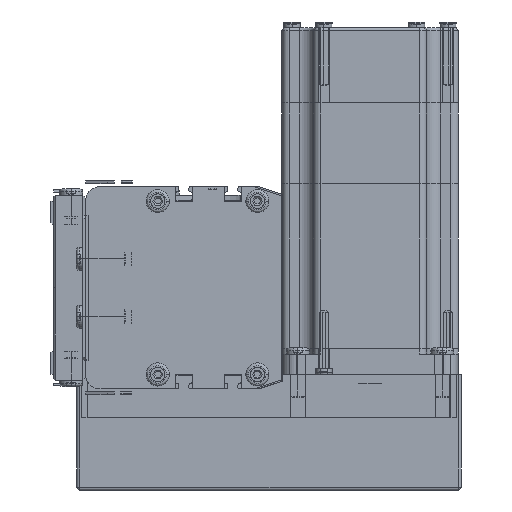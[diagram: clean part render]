
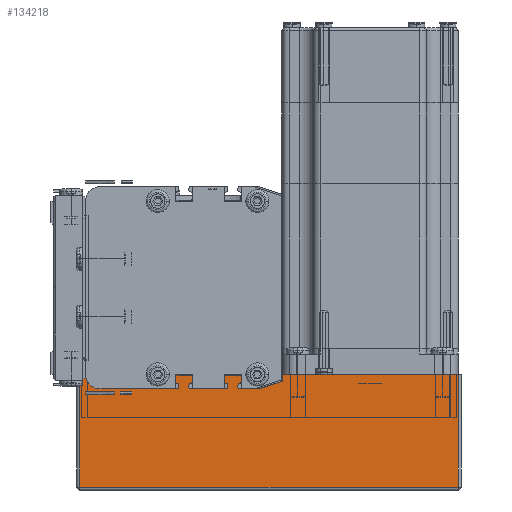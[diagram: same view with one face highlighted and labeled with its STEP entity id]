
A CAD part, left-side view. The second image highlights one B-rep face of the part: STEP entity #134218.
In plain terms, the highlighted planar face has unit normal (-1, 0, 0) as drawn and (0, 1, 0) by its records, which use the part's own axes.
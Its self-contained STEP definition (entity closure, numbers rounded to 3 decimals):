
#134013 = VERTEX_POINT ( 'NONE', #148369 ) ;
#134064 = VERTEX_POINT ( 'NONE', #148492 ) ;
#134111 = EDGE_LOOP ( 'NONE', ( #134220, #134219, #134261, #134267 ) ) ;
#134124 = EDGE_CURVE ( 'NONE', #134064, #134013, #148612, .T. ) ;
#134191 = VERTEX_POINT ( 'NONE', #148763 ) ;
#134207 = VERTEX_POINT ( 'NONE', #148759 ) ;
#134215 = EDGE_CURVE ( 'NONE', #134013, #134207, #148753, .T. ) ;
#134218 = ADVANCED_FACE ( 'NONE', ( #148749 ), #148790, .F. ) ;
#134219 = ORIENTED_EDGE ( 'NONE', *, *, #134257, .T. ) ;
#134220 = ORIENTED_EDGE ( 'NONE', *, *, #134258, .T. ) ;
#134257 = EDGE_CURVE ( 'NONE', #134191, #134064, #148982, .T. ) ;
#134258 = EDGE_CURVE ( 'NONE', #134207, #134191, #148984, .T. ) ;
#134261 = ORIENTED_EDGE ( 'NONE', *, *, #134124, .T. ) ;
#134267 = ORIENTED_EDGE ( 'NONE', *, *, #134215, .T. ) ;
#148369 = CARTESIAN_POINT ( 'NONE',  ( 1., 62., 0. ) ) ;
#148492 = CARTESIAN_POINT ( 'NONE',  ( 132., 62., 0. ) ) ;
#148611 = CARTESIAN_POINT ( 'NONE',  ( 0., 62., 0. ) ) ;
#148612 = LINE ( 'NONE', #148611, #148668 ) ;
#148667 = DIRECTION ( 'NONE',  ( -1., 0., 0. ) ) ;
#148668 = VECTOR ( 'NONE', #148667, 1000. ) ;
#148746 = CARTESIAN_POINT ( 'NONE',  ( 0., 62., 40. ) ) ;
#148749 = FACE_OUTER_BOUND ( 'NONE', #134111, .T. ) ;
#148752 = CARTESIAN_POINT ( 'NONE',  ( 1., 62., 40. ) ) ;
#148753 = LINE ( 'NONE', #148752, #148793 ) ;
#148759 = CARTESIAN_POINT ( 'NONE',  ( 1., 62., 39. ) ) ;
#148763 = CARTESIAN_POINT ( 'NONE',  ( 132., 62., 39. ) ) ;
#148780 = DIRECTION ( 'NONE',  ( 0., 0., -1. ) ) ;
#148781 = DIRECTION ( 'NONE',  ( 0., -1., 0. ) ) ;
#148786 = AXIS2_PLACEMENT_3D ( 'NONE', #148746, #148781, #148780 ) ;
#148790 = PLANE ( 'NONE',  #148786 ) ;
#148792 = DIRECTION ( 'NONE',  ( 0., 0., 1. ) ) ;
#148793 = VECTOR ( 'NONE', #148792, 1000. ) ;
#148973 = DIRECTION ( 'NONE',  ( 1., 0., 0. ) ) ;
#148974 = VECTOR ( 'NONE', #148973, 1000. ) ;
#148977 = CARTESIAN_POINT ( 'NONE',  ( 0., 62., 39. ) ) ;
#148979 = DIRECTION ( 'NONE',  ( 0., 0., -1. ) ) ;
#148980 = VECTOR ( 'NONE', #148979, 1000. ) ;
#148981 = CARTESIAN_POINT ( 'NONE',  ( 132., 62., 40. ) ) ;
#148982 = LINE ( 'NONE', #148981, #148980 ) ;
#148984 = LINE ( 'NONE', #148977, #148974 ) ;
